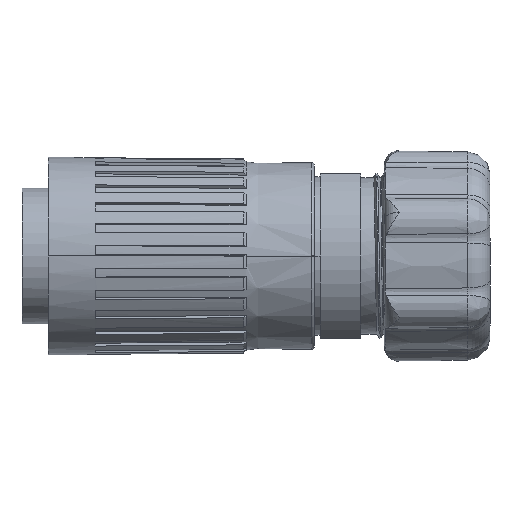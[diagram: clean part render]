
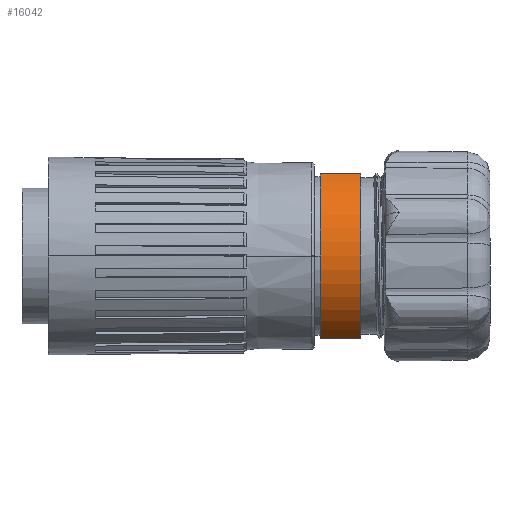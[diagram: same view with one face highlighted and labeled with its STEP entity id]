
A CAD part, left-side view. The second image highlights one B-rep face of the part: STEP entity #16042.
In plain terms, the highlighted cylindrical face has radius 12.5 mm (diameter 25 mm), a partial arc.
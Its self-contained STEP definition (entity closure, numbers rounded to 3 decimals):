
#2684=CARTESIAN_POINT('',(15.036,22.524,-14.328));
#2685=DIRECTION('',(0.,-1.,0.));
#2686=DIRECTION('',(-0.49,0.,0.872));
#2687=AXIS2_PLACEMENT_3D('',#2684,#2685,#2686);
#2689=CARTESIAN_POINT('',(15.036,22.524,-14.328));
#2690=DIRECTION('',(0.,-1.,0.));
#2691=DIRECTION('',(-1.,0.,0.));
#2692=AXIS2_PLACEMENT_3D('',#2689,#2690,#2691);
#2728=CARTESIAN_POINT('',(15.036,17.124,-14.328));
#2729=DIRECTION('',(0.,1.,0.));
#2730=DIRECTION('',(-0.49,0.,-0.872));
#2731=AXIS2_PLACEMENT_3D('',#2728,#2729,#2730);
#2733=CARTESIAN_POINT('',(15.036,17.124,-14.328));
#2734=DIRECTION('',(0.,1.,0.));
#2735=DIRECTION('',(-1.,0.,0.));
#2736=AXIS2_PLACEMENT_3D('',#2733,#2734,#2735);
#2768=DIRECTION('',(0.,1.,0.));
#2769=VECTOR('',#2768,5.4);
#2770=CARTESIAN_POINT('',(8.917,17.124,-25.228));
#2771=LINE('',#2770,#2769);
#2772=DIRECTION('',(0.,-1.,0.));
#2773=VECTOR('',#2772,5.4);
#2774=CARTESIAN_POINT('',(8.917,22.524,-3.428));
#2775=LINE('',#2774,#2773);
#11543=CARTESIAN_POINT('',(8.917,22.524,
-3.428));
#11545=VERTEX_POINT('',#11543);
#11547=CARTESIAN_POINT('',(2.536,22.524,
-14.328));
#11548=VERTEX_POINT('',#11547);
#11549=CARTESIAN_POINT('',(8.917,22.524,
-25.228));
#11550=VERTEX_POINT('',#11549);
#11555=CARTESIAN_POINT('',(8.917,17.124,
-3.428));
#11557=VERTEX_POINT('',#11555);
#11563=CARTESIAN_POINT('',(8.917,17.124,
-25.228));
#11564=VERTEX_POINT('',#11563);
#11565=CARTESIAN_POINT('',(2.536,17.124,
-14.328));
#11566=VERTEX_POINT('',#11565);
#16029=CARTESIAN_POINT('',(15.036,22.632,
-14.328));
#16030=DIRECTION('',(0.,-1.,0.));
#16031=DIRECTION('',(-1.,0.,0.));
#16032=AXIS2_PLACEMENT_3D('',#16029,#16030,#16031);
#16033=CYLINDRICAL_SURFACE('',#16032,12.5);
#16034=ORIENTED_EDGE('',*,*,#15989,.F.);
#16035=ORIENTED_EDGE('',*,*,#15987,.F.);
#16036=ORIENTED_EDGE('',*,*,#16024,.T.);
#16037=ORIENTED_EDGE('',*,*,#15946,.F.);
#16038=ORIENTED_EDGE('',*,*,#15944,.F.);
#16039=ORIENTED_EDGE('',*,*,#15968,.T.);
#16040=EDGE_LOOP('',(#16034,#16035,#16036,#16037,#16038,#16039));
#16041=FACE_OUTER_BOUND('',#16040,.F.);
#16042=ADVANCED_FACE('',(#16041),#16033,.T.);
#2688=CIRCLE('',#2687,12.5);
#2693=CIRCLE('',#2692,12.5);
#2732=CIRCLE('',#2731,12.5);
#2737=CIRCLE('',#2736,12.5);
#15944=EDGE_CURVE('',#11545,#11548,#2688,.T.);
#15946=EDGE_CURVE('',#11548,#11550,#2693,.T.);
#15968=EDGE_CURVE('',#11545,#11557,#2775,.T.);
#15987=EDGE_CURVE('',#11564,#11566,#2732,.T.);
#15989=EDGE_CURVE('',#11566,#11557,#2737,.T.);
#16024=EDGE_CURVE('',#11564,#11550,#2771,.T.);
